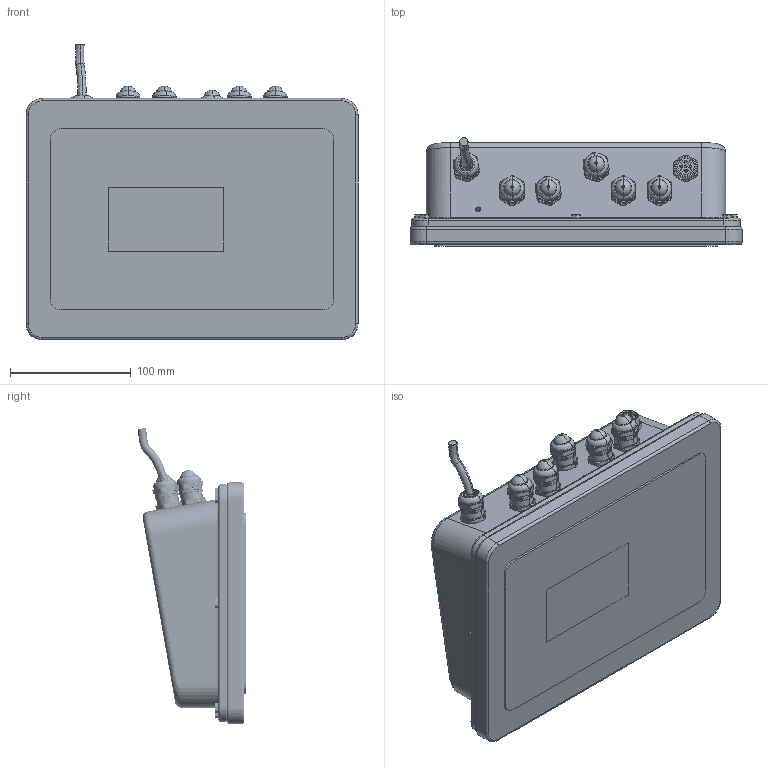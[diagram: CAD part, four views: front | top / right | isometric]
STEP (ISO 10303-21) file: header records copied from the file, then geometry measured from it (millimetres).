
FILE_DESCRIPTION((''),'2;1');
FILE_NAME('30553547-A2_ASM','2020-09-10T19:28:35',('li-474'),(''),'CREO PARAMETRIC BY PTC INC, 2018260','CREO PARAMETRIC BY PTC INC, 2018260','');
FILE_SCHEMA(('CONFIG_CONTROL_DESIGN'));
Products named in the file (15): D000474963; D000474949; 30553543; D000474916; D000476234; 72230227; 72192858_1; 72192858_2; 72192858_3; 72192858_4; 72192858_ASM; IE-NET-CONNECTOR; 72261586_EX; AC-POWER-LINE; 30553547-A2_ASM
Assembly tree (30 placements, depth 3):
  30553547-A2_ASM
    D000474963
    D000474949
    30553543
    D000474916
    D000476234
    72230227  x8
    72192858_ASM  x6
      72192858_1
      72192858_2
      72192858_3
      72192858_4
    IE-NET-CONNECTOR
    72261586_EX  x5
    AC-POWER-LINE
Bounding box: 275 x 89.66 x 244.98 mm (x, y, z)
Volume: 454917.7 mm3; surface area: 550470.5 mm2
Topology: 44 solids, 103 shells, 5603 faces, 14619 edges, 9519 vertices
Faces by surface type: plane 3659, cylinder 1222, cone 439, torus 205, sphere 46, bspline 32
Entity records: 75796 total; most frequent: CARTESIAN_POINT 16048, DIRECTION 12635, ORIENTED_EDGE 12108, EDGE_CURVE 6142, AXIS2_PLACEMENT_3D 4310, VECTOR 4015, LINE 4015, VERTEX_POINT 4001
